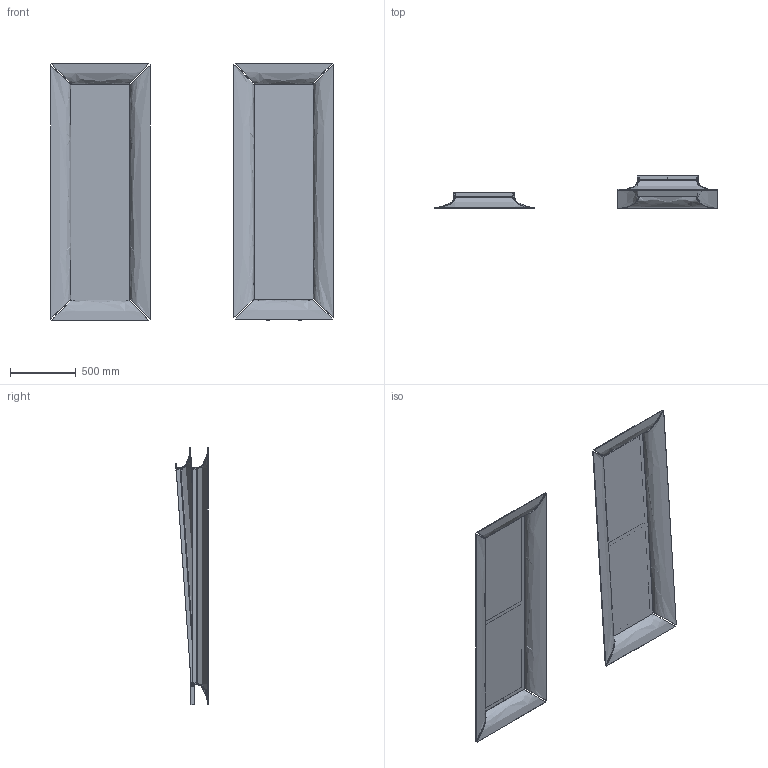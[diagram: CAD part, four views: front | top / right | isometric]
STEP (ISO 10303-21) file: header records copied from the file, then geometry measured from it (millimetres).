
FILE_DESCRIPTION(/* description */ (''),/* implementation_level */ '2;1');
FILE_NAME(/* name */ 'CAADRE~1',/* time_stamp */ '2018-10-08T15:42:33+02:00',/* author */ (''),/* organization */ (''),/* preprocessor_version */ 'ST-DEVELOPER v16.5',/* originating_system */ '',/* authorisation */ '');
FILE_SCHEMA (('CONFIG_CONTROL_DESIGN'));
Length unit declared in the file: millimetre
Products named in the file (1): Document
Bounding box: 2147.94 x 246.85 x 1954.32 mm (x, y, z)
Volume: 29262741 mm3; surface area: 8327525.6 mm2
Topology: 17 solids, 17 shells, 165 faces, 387 edges, 248 vertices
Faces by surface type: bspline 93, plane 72
Entity records: 7895 total; most frequent: CARTESIAN_POINT 5201, ORIENTED_EDGE 758, EDGE_CURVE 379, B_SPLINE_CURVE_WITH_KNOTS 379, VERTEX_POINT 240, EDGE_LOOP 167, ADVANCED_FACE 165, FACE_OUTER_BOUND 165
